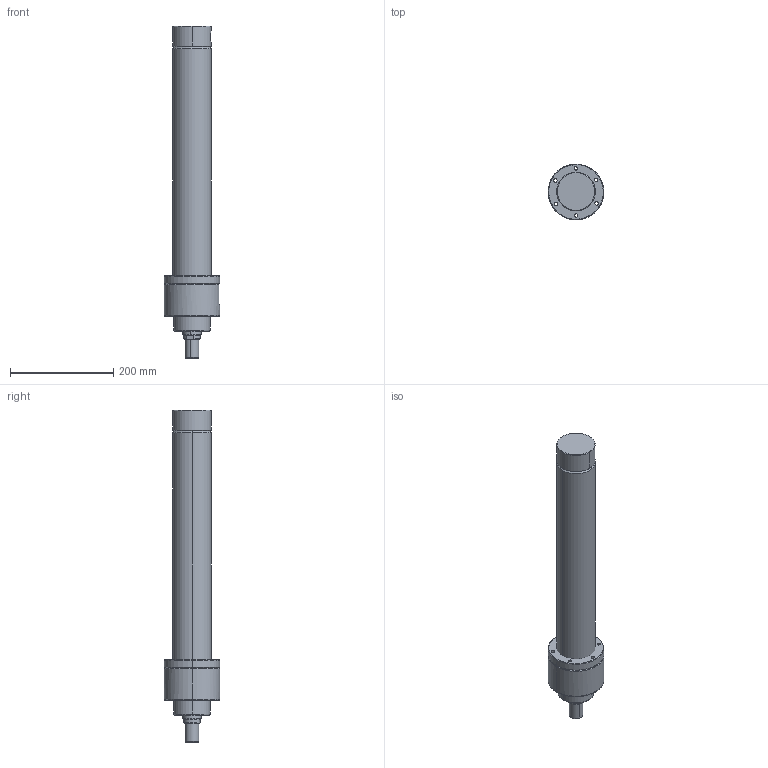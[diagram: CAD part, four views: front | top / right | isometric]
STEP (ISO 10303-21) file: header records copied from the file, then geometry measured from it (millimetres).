
FILE_DESCRIPTION (( 'STEP AP214' ), '1' );
FILE_NAME ('63-35-400-WEB.STEP', '2021-01-13T12:22:37', ( 'cagdas' ), ( '' ), 'SwSTEP 2.0', 'SolidWorks 2021', '' );
FILE_SCHEMA (( 'AUTOMOTIVE_DESIGN' ));
Length unit declared in the file: millimetre
Products named in the file (6): 63_Gerdirme _Flansý; 63-35-400-WEB; TYAK_63_75; 63x75_BORU_WEB; 63_36_CETOP_烰_KAPAK; 35_K_MIL_WEB
Assembly tree (5 placements, depth 2):
  63-35-400-WEB
    63x75_BORU_WEB
    TYAK_63_75
    63_36_CETOP_烰_KAPAK
    63_Gerdirme _Flansý
    35_K_MIL_WEB
Bounding box: 107.99 x 107.99 x 644 mm (x, y, z)
Volume: 1603920.7 mm3; surface area: 342535.7 mm2
Topology: 5 solids, 5 shells, 377 faces, 925 edges, 590 vertices
Faces by surface type: plane 120, cylinder 102, bspline 87, cone 64, torus 4
Entity records: 17240 total; most frequent: CARTESIAN_POINT 8406, ORIENTED_EDGE 1850, DIRECTION 1528, EDGE_CURVE 925, VERTEX_POINT 590, AXIS2_PLACEMENT_3D 575, EDGE_LOOP 443, LINE 378
